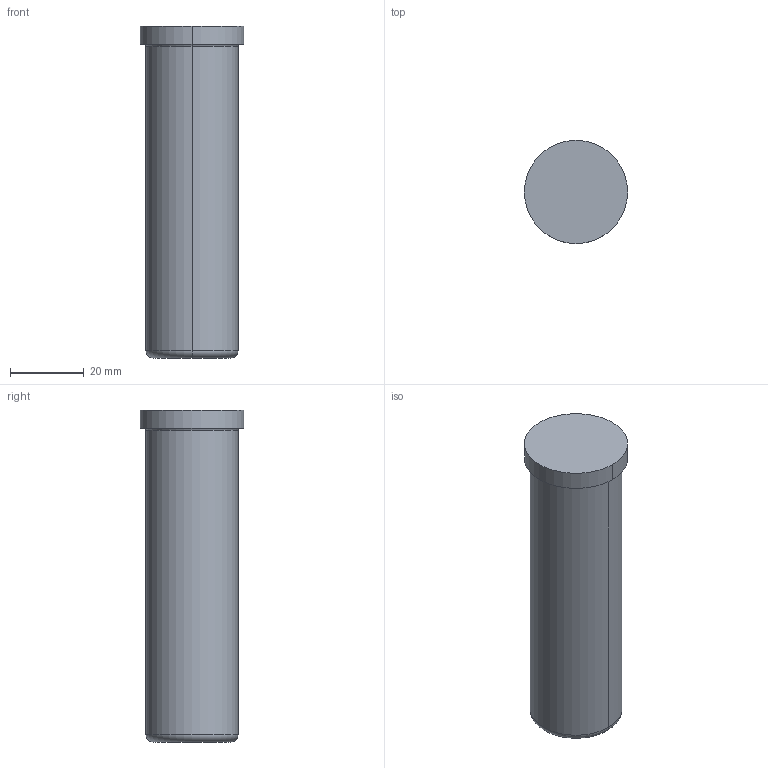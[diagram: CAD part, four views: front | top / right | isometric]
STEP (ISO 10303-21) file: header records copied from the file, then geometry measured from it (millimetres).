
FILE_DESCRIPTION(/* description */ (''),/* implementation_level */ '2;1');
FILE_NAME(/* name */ '3d_sgph25-90_00274_r00.stp',/* time_stamp */ '2011-01-10T14:11:07+09:00',/* author */ ('MISUMI'),/* organization */ (''),/* preprocessor_version */ 'ST-DEVELOPER v11',/* originating_system */ 'UGS - NX 5.0',/* authorisation */ '');
FILE_SCHEMA (('CONFIG_CONTROL_DESIGN'));
Length unit declared in the file: millimetre
Products named in the file (1): 3d_sgph25-90_00274_r00
Bounding box: 28 x 28 x 90 mm (x, y, z)
Volume: 44742.3 mm3; surface area: 8261.3 mm2
Topology: 1 solids, 1 shells, 11 faces, 20 edges, 12 vertices
Faces by surface type: cylinder 4, torus 4, plane 3
Entity records: 364 total; most frequent: DIRECTION 60, CARTESIAN_POINT 44, ORIENTED_EDGE 40, AXIS2_PLACEMENT_3D 28, EDGE_CURVE 20, CIRCLE 16, EDGE_LOOP 12, VERTEX_POINT 12
